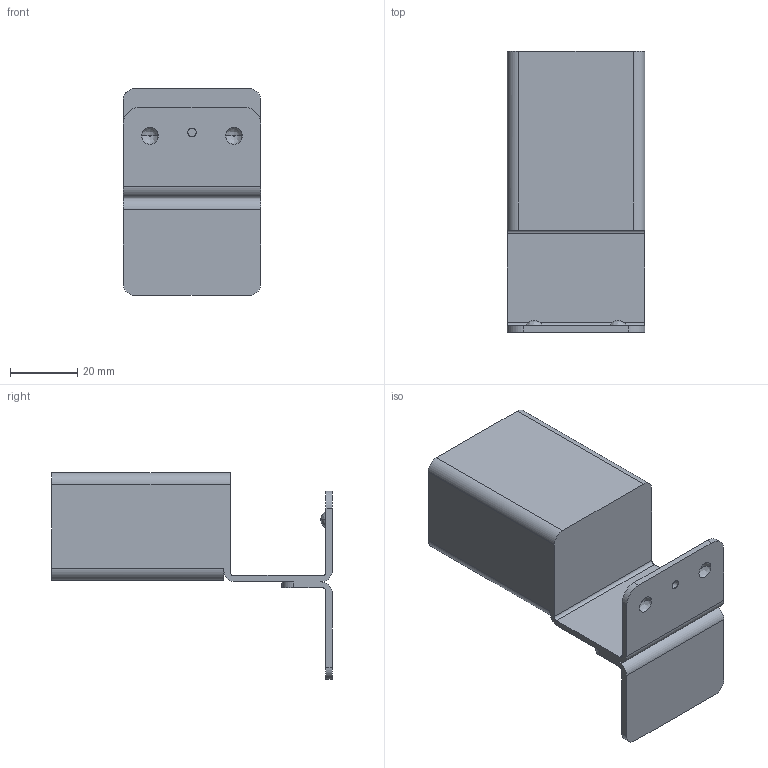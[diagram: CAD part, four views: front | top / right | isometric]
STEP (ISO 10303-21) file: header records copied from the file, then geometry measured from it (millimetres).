
FILE_DESCRIPTION((''),'2;1');
FILE_NAME('FH-2033B','2021-06-01T10:20:04',('Administrator'),(''),'CREO PARAMETRIC BY PTC INC, 2019224','CREO PARAMETRIC BY PTC INC, 2019224','');
FILE_SCHEMA(('CONFIG_CONTROL_DESIGN'));
Length unit declared in the file: millimetre
Products named in the file (1): FH-2033B
Bounding box: 41 x 83.6 x 61.5 mm (x, y, z)
Volume: 20616.5 mm3; surface area: 21315.8 mm2
Topology: 1 solids, 1 shells, 68 faces, 182 edges, 120 vertices
Faces by surface type: plane 34, cylinder 26, bspline 8
Entity records: 2404 total; most frequent: CARTESIAN_POINT 639, DIRECTION 366, ORIENTED_EDGE 364, EDGE_CURVE 182, AXIS2_PLACEMENT_3D 137, VERTEX_POINT 120, VECTOR 92, LINE 92
